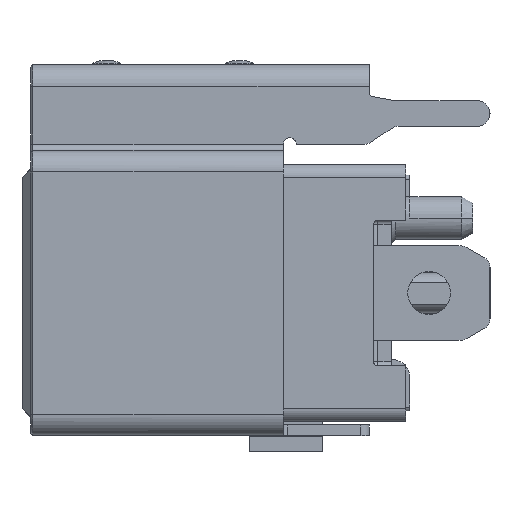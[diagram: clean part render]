
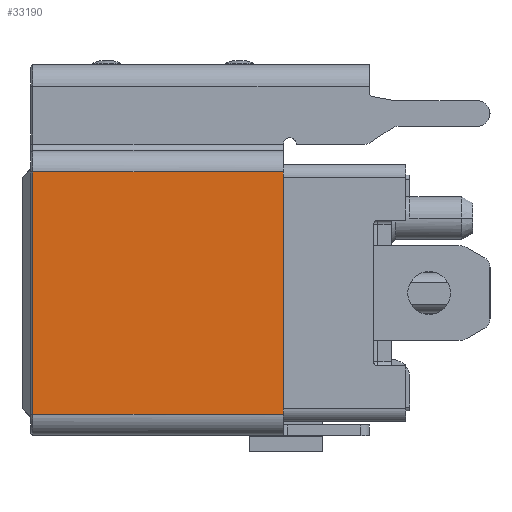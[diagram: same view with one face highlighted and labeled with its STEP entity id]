
A CAD part, left-side view. The second image highlights one B-rep face of the part: STEP entity #33190.
In plain terms, the highlighted planar face has unit normal (-1, 0, 0).
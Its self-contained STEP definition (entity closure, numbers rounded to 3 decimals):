
#2702=DIRECTION('',(0.,1.,0.));
#2703=VECTOR('',#2702,5.85);
#2704=CARTESIAN_POINT('',(-28.045,2.52,2.825));
#2705=LINE('',#2704,#2703);
#4644=DIRECTION('',(0.,0.,-1.));
#4645=VECTOR('',#4644,3.43);
#4646=CARTESIAN_POINT('',(-28.045,2.22,1.715));
#4647=LINE('',#4646,#4645);
#4704=DIRECTION('',(0.,0.,1.));
#4705=VECTOR('',#4704,0.22);
#4706=CARTESIAN_POINT('',(-28.045,2.52,-2.035));
#4707=LINE('',#4706,#4705);
#4712=CARTESIAN_POINT('',(-28.045,2.42,-1.815));
#4713=DIRECTION('',(-1.,0.,0.));
#4714=DIRECTION('',(0.,0.,1.));
#4715=AXIS2_PLACEMENT_3D('',#4712,#4713,#4714);
#4717=DIRECTION('',(0.,0.,-1.));
#4718=VECTOR('',#4717,0.79);
#4719=CARTESIAN_POINT('',(-28.045,2.52,-2.035));
#4720=LINE('',#4719,#4718);
#4721=DIRECTION('',(0.,1.,0.));
#4722=VECTOR('',#4721,5.85);
#4723=CARTESIAN_POINT('',(-28.045,2.52,-2.825));
#4724=LINE('',#4723,#4722);
#4725=DIRECTION('',(0.,0.,-1.));
#4726=VECTOR('',#4725,0.79);
#4727=CARTESIAN_POINT('',(-28.045,2.52,2.825));
#4728=LINE('',#4727,#4726);
#4729=CARTESIAN_POINT('',(-28.045,2.42,1.815));
#4730=DIRECTION('',(-1.,0.,0.));
#4731=DIRECTION('',(0.,1.,0.));
#4732=AXIS2_PLACEMENT_3D('',#4729,#4730,#4731);
#4734=CARTESIAN_POINT('',(-28.045,2.42,1.815));
#4735=DIRECTION('',(-1.,0.,0.));
#4736=DIRECTION('',(0.,0.958,-0.287));
#4737=AXIS2_PLACEMENT_3D('',#4734,#4735,#4736);
#4747=DIRECTION('',(0.,1.,0.));
#4748=VECTOR('',#4747,0.2);
#4749=CARTESIAN_POINT('',(-28.045,2.22,-1.715));
#4750=LINE('',#4749,#4748);
#4759=DIRECTION('',(0.,0.,1.));
#4760=VECTOR('',#4759,5.65);
#4761=CARTESIAN_POINT('',(-28.045,8.37,
-2.825));
#4762=LINE('',#4761,#4760);
#12274=DIRECTION('',(0.,0.,-1.));
#12275=VECTOR('',#12274,0.22);
#12276=CARTESIAN_POINT('',(-28.045,2.52,2.035));
#12277=LINE('',#12276,#12275);
#12290=DIRECTION('',(0.,1.,0.));
#12291=VECTOR('',#12290,0.2);
#12292=CARTESIAN_POINT('',(-28.045,2.22,1.715));
#12293=LINE('',#12292,#12291);
#21732=CARTESIAN_POINT('',(-28.045,2.52,-2.825));
#21733=VERTEX_POINT('',#21732);
#21742=CARTESIAN_POINT('',(-28.045,2.52,2.825));
#21743=VERTEX_POINT('',#21742);
#21744=CARTESIAN_POINT('',(-28.045,2.52,2.035));
#21745=VERTEX_POINT('',#21744);
#21750=CARTESIAN_POINT('',(-28.045,2.52,-2.035));
#21751=VERTEX_POINT('',#21750);
#21757=CARTESIAN_POINT('',(-28.045,8.37,-2.825));
#21758=VERTEX_POINT('',#21757);
#21858=CARTESIAN_POINT('',(-28.045,2.22,1.715));
#21859=CARTESIAN_POINT('',(-28.045,2.22,-1.715));
#21860=VERTEX_POINT('',#21858);
#21861=VERTEX_POINT('',#21859);
#21862=CARTESIAN_POINT('',(-28.045,2.42,1.715));
#21863=VERTEX_POINT('',#21862);
#21864=CARTESIAN_POINT('',(-28.045,2.516,1.786));
#21865=VERTEX_POINT('',#21864);
#21866=CARTESIAN_POINT('',(-28.045,2.52,1.815));
#21867=VERTEX_POINT('',#21866);
#21868=CARTESIAN_POINT('',(-28.045,8.37,
2.825));
#21869=VERTEX_POINT('',#21868);
#21870=CARTESIAN_POINT('',(-28.045,2.52,-1.815));
#21871=VERTEX_POINT('',#21870);
#21872=CARTESIAN_POINT('',(-28.045,2.42,-1.715));
#21873=VERTEX_POINT('',#21872);
#33163=CARTESIAN_POINT('',(-28.045,5.295,0.));
#33164=DIRECTION('',(1.,0.,0.));
#33165=DIRECTION('',(0.,0.,-1.));
#33166=AXIS2_PLACEMENT_3D('',#33163,#33164,#33165);
#33167=PLANE('',#33166);
#33168=ORIENTED_EDGE('',*,*,#33081,.T.);
#33170=ORIENTED_EDGE('',*,*,#33169,.T.);
#33172=ORIENTED_EDGE('',*,*,#33171,.T.);
#33173=ORIENTED_EDGE('',*,*,#33155,.F.);
#33174=ORIENTED_EDGE('',*,*,#30329,.T.);
#33175=ORIENTED_EDGE('',*,*,#30366,.T.);
#33177=ORIENTED_EDGE('',*,*,#33176,.T.);
#33178=ORIENTED_EDGE('',*,*,#30314,.F.);
#33179=ORIENTED_EDGE('',*,*,#30337,.T.);
#33181=ORIENTED_EDGE('',*,*,#33180,.T.);
#33183=ORIENTED_EDGE('',*,*,#33182,.T.);
#33185=ORIENTED_EDGE('',*,*,#33184,.T.);
#33187=ORIENTED_EDGE('',*,*,#33186,.F.);
#33188=EDGE_LOOP('',(#33168,#33170,#33172,#33173,#33174,#33175,#33177,#33178,
#33179,#33181,#33183,#33185,#33187));
#33189=FACE_OUTER_BOUND('',#33188,.F.);
#33190=ADVANCED_FACE('',(#33189),#33167,.F.);
#4716=CIRCLE('',#4715,0.1);
#4733=CIRCLE('',#4732,0.1);
#4738=CIRCLE('',#4737,0.1);
#30314=EDGE_CURVE('',#21743,#21869,#2705,.T.);
#30329=EDGE_CURVE('',#21751,#21733,#4720,.T.);
#30337=EDGE_CURVE('',#21743,#21745,#4728,.T.);
#30366=EDGE_CURVE('',#21733,#21758,#4724,.T.);
#33081=EDGE_CURVE('',#21860,#21861,#4647,.T.);
#33155=EDGE_CURVE('',#21751,#21871,#4707,.T.);
#33169=EDGE_CURVE('',#21861,#21873,#4750,.T.);
#33171=EDGE_CURVE('',#21873,#21871,#4716,.T.);
#33176=EDGE_CURVE('',#21758,#21869,#4762,.T.);
#33180=EDGE_CURVE('',#21745,#21867,#12277,.T.);
#33182=EDGE_CURVE('',#21867,#21865,#4733,.T.);
#33184=EDGE_CURVE('',#21865,#21863,#4738,.T.);
#33186=EDGE_CURVE('',#21860,#21863,#12293,.T.);
